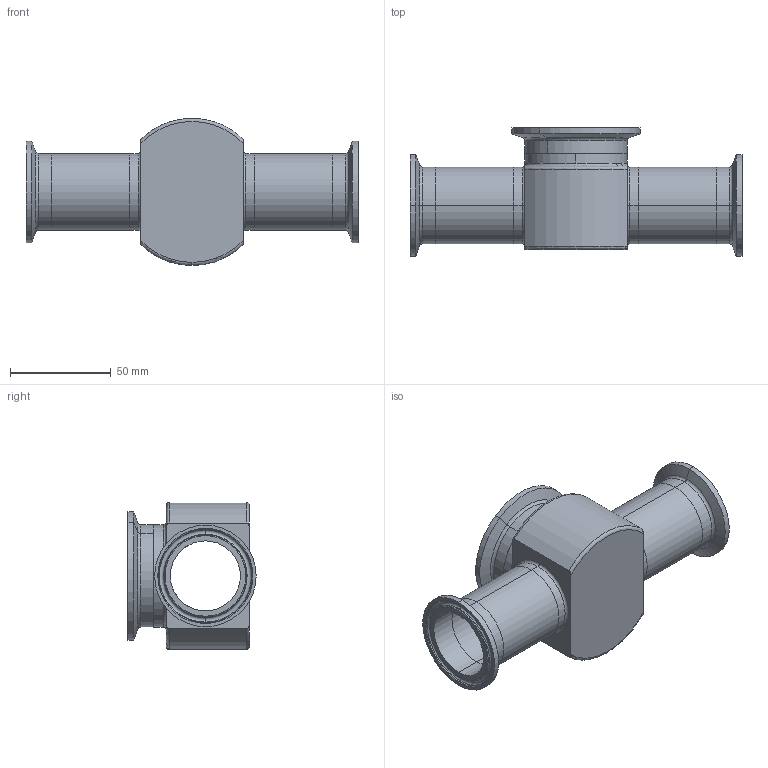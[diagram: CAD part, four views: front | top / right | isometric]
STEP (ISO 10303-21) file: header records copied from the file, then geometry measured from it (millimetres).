
FILE_DESCRIPTION (( 'STEP AP214' ), '1' );
FILE_NAME ('TEG7IS 1.5X2.0.STEP', '2025-10-10T15:32:29', ( '' ), ( '' ), 'SwSTEP 2.0', 'SolidWorks 2023', '' );
FILE_SCHEMA (( 'AUTOMOTIVE_DESIGN' ));
Length unit declared in the file: inch
Products named in the file (1): TEG7IS 1.5X2.0
Bounding box: 164.8 x 63.68 x 72.96 mm (x, y, z)
Volume: 115899.8 mm3; surface area: 56901.8 mm2
Topology: 6 solids, 6 shells, 124 faces, 267 edges, 159 vertices
Faces by surface type: torus 41, cylinder 40, plane 21, cone 18, bspline 4
Entity records: 4397 total; most frequent: CARTESIAN_POINT 1517, DIRECTION 657, ORIENTED_EDGE 534, AXIS2_PLACEMENT_3D 295, EDGE_CURVE 267, CIRCLE 174, VERTEX_POINT 159, EDGE_LOOP 142
